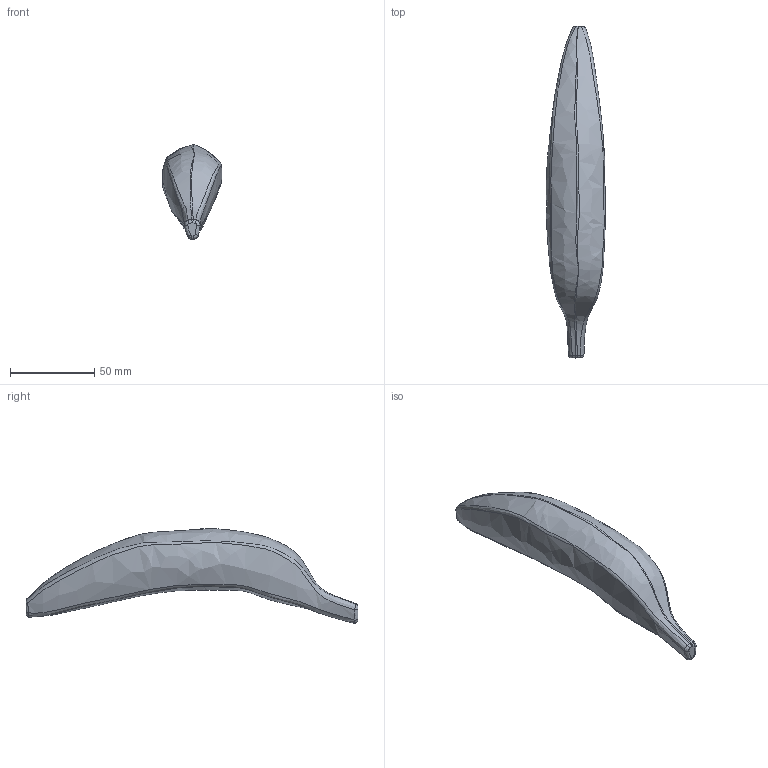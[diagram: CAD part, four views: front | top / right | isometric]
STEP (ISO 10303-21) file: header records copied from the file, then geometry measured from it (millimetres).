
FILE_DESCRIPTION(/* description */ (''),/* implementation_level */ '2;1');
FILE_NAME(/* name */ 'F:\Documents\Inventor\Banana for Scale\bananaforscale.stp',/* time_stamp */ '2015-11-17T15:38:40+01:00',/* author */ ('Stephan'),/* organization */ (''),/* preprocessor_version */ 'ST-DEVELOPER v16.1',/* originating_system */ 'Autodesk Inventor 2016',/* authorisation */ '');
FILE_SCHEMA (('AUTOMOTIVE_DESIGN { 1 0 10303 214 3 1 1 }'));
Length unit declared in the file: millimetre
Products named in the file (1): bananaforscale
Bounding box: 35.53 x 196.75 x 56.06 mm (x, y, z)
Volume: 138089.8 mm3; surface area: 18727.9 mm2
Topology: 1 solids, 1 shells, 32 faces, 70 edges, 40 vertices
Faces by surface type: bspline 30, plane 2
Entity records: 4842 total; most frequent: CARTESIAN_POINT 4262, ORIENTED_EDGE 140, EDGE_CURVE 70, B_SPLINE_CURVE_WITH_KNOTS 50, DIRECTION 46, VERTEX_POINT 40, FACE_OUTER_BOUND 32, EDGE_LOOP 32
